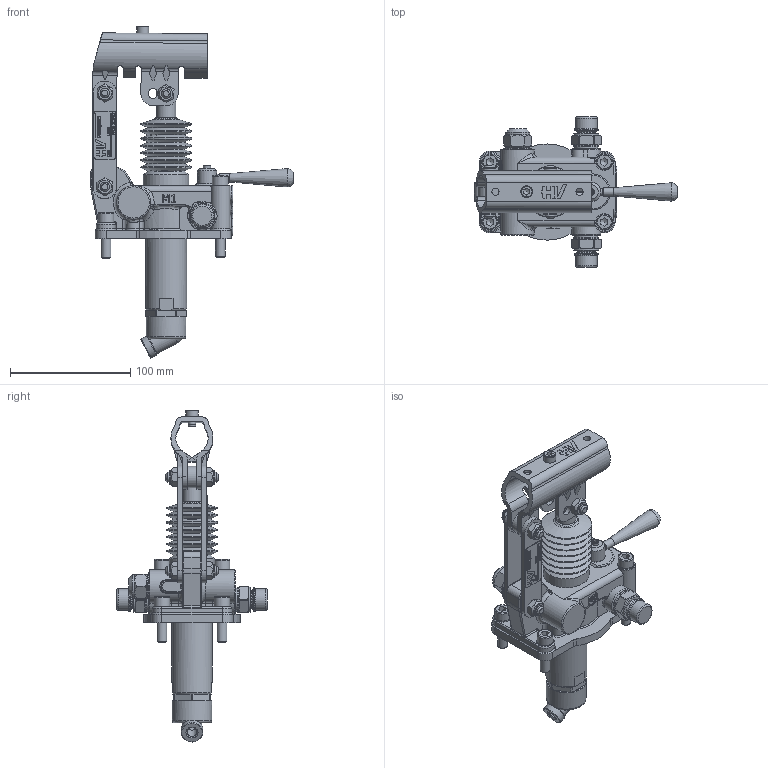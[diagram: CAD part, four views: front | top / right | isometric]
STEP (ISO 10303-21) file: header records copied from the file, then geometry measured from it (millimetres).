
FILE_DESCRIPTION((''),'2;1');
FILE_NAME('G:\HV_HYDRAULIC\AZIENDA_HV_HYDRAULIC\ARCHIVIO_DISEGNI\5_PRODOTTI_FINITI\1_POMPE_MANUALI\6056_PMD_25\6056.0051_PMD_25_dna-byB-s_(HV)\6056.0051.stp','2024-03-04T08:41:40',('christian.scardovi'),(''),'Autodesk Inventor 2013','Autodesk Inventor 2013','');
FILE_SCHEMA(('AUTOMOTIVE_DESIGN { 1 0 10303 214 1 1 1 1 }'));
Length unit declared in the file: millimetre
Products named in the file (1): 6056.0051
Bounding box: 169 x 125 x 276.08 mm (x, y, z)
Surface area: 125336.9 mm2
Topology: 2 solids, 3 shells, 1525 faces, 3851 edges, 2437 vertices
Faces by surface type: plane 752, cylinder 317, bspline 184, cone 147, torus 111, sphere 14
Full cylindrical faces by diameter (mm): 4.917 x1, 5 x6, 6 x7, 6.5 x1, 7 x1, 8 x15, 9 x1, 9.2 x1, 10 x3, 10.376 x1, 11.05 x6, 12 x5, 13 x4, 13.2 x1, 14 x4, 14.95 x2, 15.9 x2, 16 x6, 16.6 x4, 17 x1, 17.6 x1, 18 x6, 19 x2, 20 x4, 21 x6, 22 x1, 23 x2, 24 x1, 25 x2, 26.5 x1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
Entity records: 47633 total; most frequent: CARTESIAN_POINT 12192, ORIENTED_EDGE 7030, DIRECTION 6515, EDGE_CURVE 3515, VERTEX_POINT 2349, AXIS2_PLACEMENT_3D 2310, EDGE_LOOP 1910, VECTOR 1895
